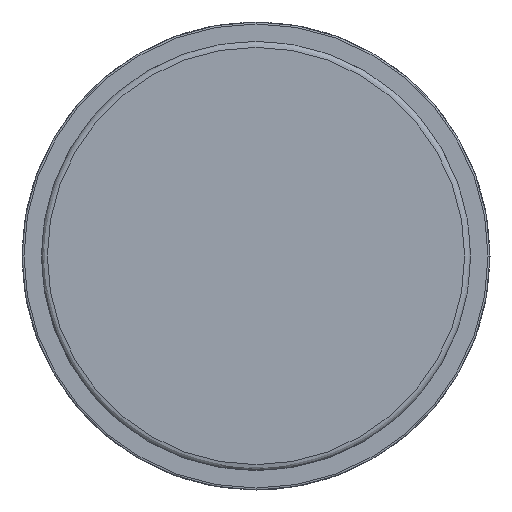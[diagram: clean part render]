
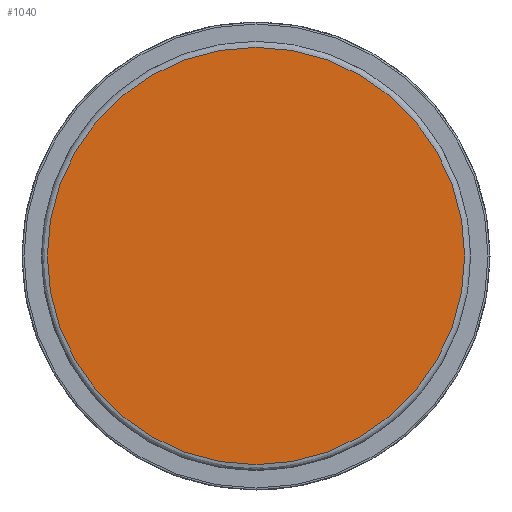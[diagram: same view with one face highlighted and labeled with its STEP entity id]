
A CAD part, left-side view. The second image highlights one B-rep face of the part: STEP entity #1040.
In plain terms, the highlighted planar face has unit normal (-1, 0, 0).
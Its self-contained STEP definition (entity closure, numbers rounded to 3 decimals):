
#1015=CARTESIAN_POINT('',(-528.136,-422.109,-66.));
#1016=DIRECTION('',(-1.0,0.0,0.0));
#1017=DIRECTION('',(0.0,-1.0,0.0));
#1018=AXIS2_PLACEMENT_3D('',#1015,#1016,#1017);
#1019=PLANE('',#1018);
#1020=CARTESIAN_POINT('',(-528.136,-541.609,0.0));
#1021=VERTEX_POINT('',#1020);
#1022=CARTESIAN_POINT('',(-528.136,-434.609,0.0));
#1023=VERTEX_POINT('',#1022);
#1024=CARTESIAN_POINT('',(-528.136,-488.109,0.0));
#1025=DIRECTION('',(-1.0,0.0,0.0));
#1026=DIRECTION('',(0.0,-1.0,0.0));
#1027=AXIS2_PLACEMENT_3D('',#1024,#1025,#1026);
#1028=CIRCLE('',#1027,53.5);
#1029=EDGE_CURVE('',#1021,#1023,#1028,.T.);
#1030=ORIENTED_EDGE('',*,*,#1029,.T.);
#1031=CARTESIAN_POINT('',(-528.136,-488.109,0.0));
#1032=DIRECTION('',(-1.0,0.0,0.0));
#1033=DIRECTION('',(0.0,-1.0,0.0));
#1034=AXIS2_PLACEMENT_3D('',#1031,#1032,#1033);
#1035=CIRCLE('',#1034,53.5);
#1036=EDGE_CURVE('',#1023,#1021,#1035,.T.);
#1037=ORIENTED_EDGE('',*,*,#1036,.T.);
#1038=EDGE_LOOP('',(#1030,#1037));
#1039=FACE_OUTER_BOUND('',#1038,.T.);
#1040=ADVANCED_FACE('',(#1039),#1019,.T.);
